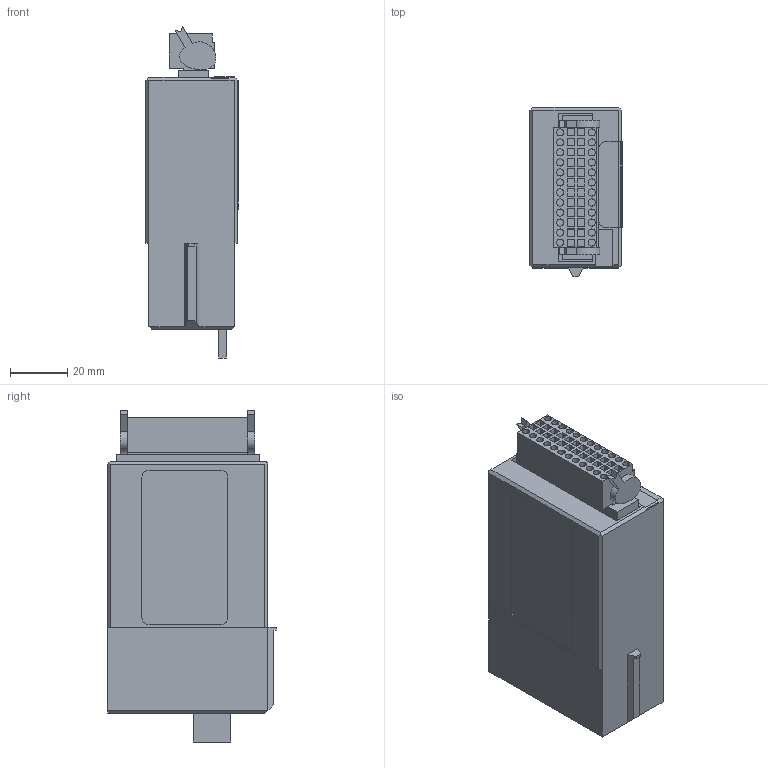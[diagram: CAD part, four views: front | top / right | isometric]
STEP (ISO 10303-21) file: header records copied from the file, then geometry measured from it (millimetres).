
FILE_DESCRIPTION(('FreeCAD Model'),'2;1');
FILE_NAME('C:/work/3D/_____PCD3E165_Plug-C/SBC_STP_PLC_PCD3E165-Plug-C_2021-01-04-stp.step','2021-01-04T10:46:55',('Author'),(''), 'Open CASCADE STEP processor 7.3','FreeCAD','Unknown');
FILE_SCHEMA(('AUTOMOTIVE_DESIGN { 1 0 10303 214 1 1 1 1 }'));
Length unit declared in the file: millimetre
Products named in the file (11): Büchse001; Label; Etikette_oben; Stecker_Typ_E_-_14_Polig; Etikette_in_der_Schräge; Etikette_unten; Leiterplatte; Buchse_C; Bus; Body008; Body010
Bounding box: 32.2 x 59 x 115.98 mm (x, y, z)
Volume: 64560.6 mm3; surface area: 55910.6 mm2
Topology: 11 solids, 11 shells, 317 faces, 721 edges, 478 vertices
Faces by surface type: plane 275, cylinder 42
Full cylindrical faces by diameter (mm): 2.5 x24
Entity records: 18393 total; most frequent: CARTESIAN_POINT 3123, DIRECTION 2829, LINE 1963, VECTOR 1963, ORIENTED_EDGE 1442, PCURVE 1442, DEFINITIONAL_REPRESENTATION 1442, EDGE_CURVE 721
